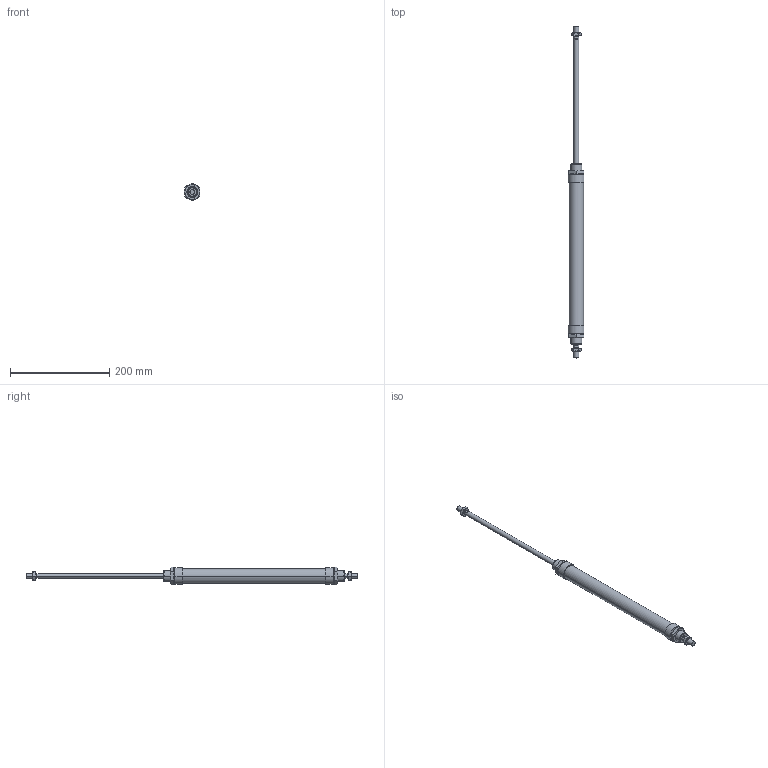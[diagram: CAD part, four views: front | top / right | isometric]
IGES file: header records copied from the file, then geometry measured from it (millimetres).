
Global section: file name: No Iges File Name specified; native system: AutoDesk Inventor R6.0; preprocessor: AutoDesk Inventor Iges Exporter R6.0; author: No Author specified; organization: No Organization specified; date: 20030403.072525; units: millimetre
Bounding box: 31.5 x 669 x 34.64 mm (x, y, z)
Volume: 263779.1 mm3; surface area: 73002.8 mm2
Topology: 6 solids, 6 shells, 184 faces, 396 edges, 232 vertices
Faces by surface type: cone 68, plane 60, bspline 30, cylinder 20, revolution 6
